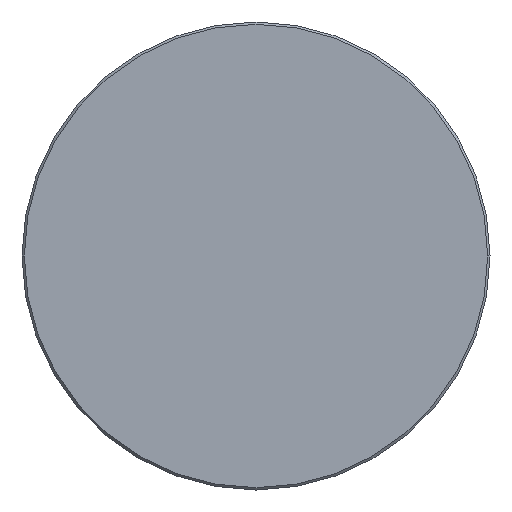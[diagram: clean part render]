
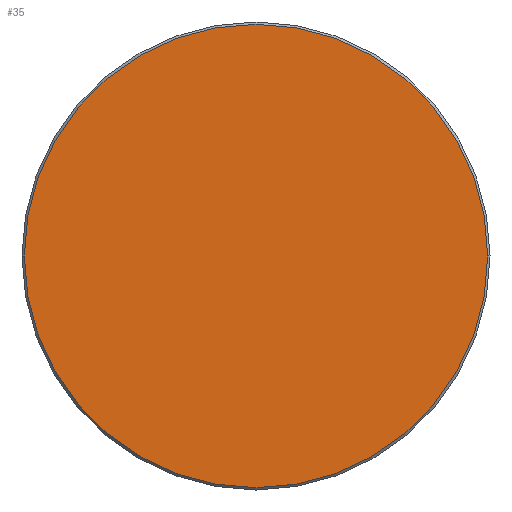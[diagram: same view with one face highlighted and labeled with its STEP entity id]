
A CAD part, left-side view. The second image highlights one B-rep face of the part: STEP entity #35.
In plain terms, the highlighted planar face has unit normal (-1, 0, 0).
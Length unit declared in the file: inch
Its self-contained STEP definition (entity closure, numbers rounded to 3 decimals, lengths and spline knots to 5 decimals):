
#8 = CIRCLE ( 'NONE', #257, 0.40225 ) ;
#16 = FACE_OUTER_BOUND ( 'NONE', #368, .T. ) ;
#20 = EDGE_CURVE ( 'NONE', #69, #250, #8, .T. ) ;
#23 = DIRECTION ( 'NONE',  ( 0., -1., 0. ) ) ;
#29 = CARTESIAN_POINT ( 'NONE',  ( 0., -0.40225, 0. ) ) ;
#35 = ADVANCED_FACE ( 'NONE', ( #16 ), #293, .T. ) ;
#45 = AXIS2_PLACEMENT_3D ( 'NONE', #89, #230, #347 ) ;
#52 = EDGE_CURVE ( 'NONE', #250, #69, #363, .T. ) ;
#68 = CARTESIAN_POINT ( 'NONE',  ( 0., 0.40225, 0. ) ) ;
#69 = VERTEX_POINT ( 'NONE', #29 ) ;
#89 = CARTESIAN_POINT ( 'NONE',  ( 0., 0., 0. ) ) ;
#107 = CARTESIAN_POINT ( 'NONE',  ( 0., 0., 0. ) ) ;
#130 = ORIENTED_EDGE ( 'NONE', *, *, #52, .T. ) ;
#186 = ORIENTED_EDGE ( 'NONE', *, *, #20, .T. ) ;
#192 = CARTESIAN_POINT ( 'NONE',  ( 0., 0., 0. ) ) ;
#195 = DIRECTION ( 'NONE',  ( -1., 0., 0. ) ) ;
#196 = DIRECTION ( 'NONE',  ( 0., -1., 0. ) ) ;
#230 = DIRECTION ( 'NONE',  ( -1., 0., 0. ) ) ;
#250 = VERTEX_POINT ( 'NONE', #68 ) ;
#257 = AXIS2_PLACEMENT_3D ( 'NONE', #192, #195, #196 ) ;
#293 = PLANE ( 'NONE',  #294 ) ;
#294 = AXIS2_PLACEMENT_3D ( 'NONE', #107, #342, #23 ) ;
#342 = DIRECTION ( 'NONE',  ( -1., 0., 0. ) ) ;
#347 = DIRECTION ( 'NONE',  ( 0., -1., 0. ) ) ;
#363 = CIRCLE ( 'NONE', #45, 0.40225 ) ;
#368 = EDGE_LOOP ( 'NONE', ( #130, #186 ) ) ;
